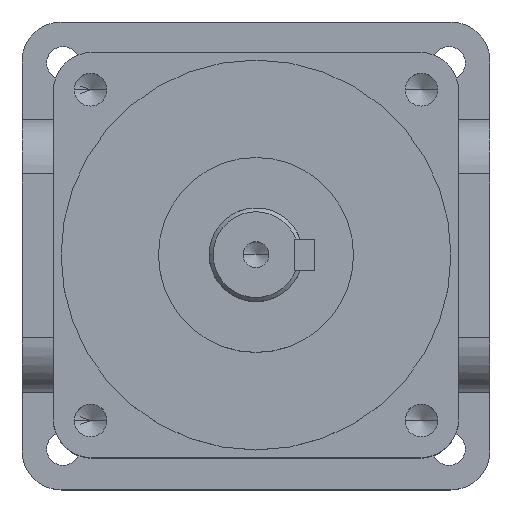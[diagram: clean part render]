
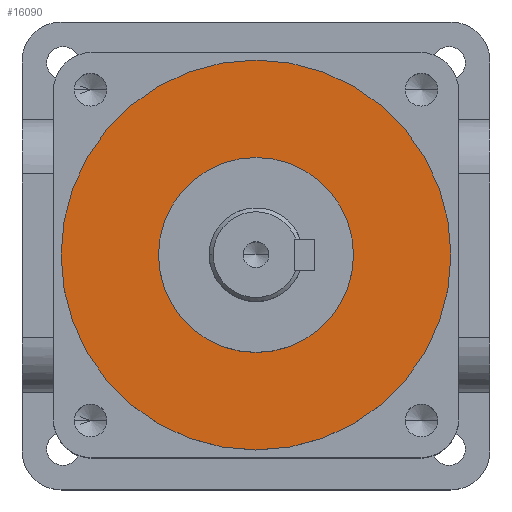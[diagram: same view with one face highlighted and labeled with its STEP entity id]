
A CAD part, top view. The second image highlights one B-rep face of the part: STEP entity #16090.
In plain terms, the highlighted planar face has unit normal (0, 0, 1).
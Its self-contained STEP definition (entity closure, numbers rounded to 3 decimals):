
#723 = ORIENTED_EDGE ( 'NONE', *, *, #6037, .F. ) ;
#1402 = EDGE_CURVE ( 'NONE', #13613, #7483, #23952, .T. ) ;
#1696 = EDGE_CURVE ( 'NONE', #28049, #32334, #6658, .T. ) ;
#1710 = PLANE ( 'NONE',  #25698 ) ;
#4171 = DIRECTION ( 'NONE',  ( 1., 0., 0. ) ) ;
#5046 = ORIENTED_EDGE ( 'NONE', *, *, #31657, .T. ) ;
#6037 = EDGE_CURVE ( 'NONE', #7483, #13613, #11746, .T. ) ;
#6093 = CARTESIAN_POINT ( 'NONE',  ( 0., 0., 3. ) ) ;
#6429 = EDGE_LOOP ( 'NONE', ( #723, #8174 ) ) ;
#6658 = CIRCLE ( 'NONE', #18054, 12.5 ) ;
#7483 = VERTEX_POINT ( 'NONE', #17508 ) ;
#8174 = ORIENTED_EDGE ( 'NONE', *, *, #1402, .F. ) ;
#8578 = DIRECTION ( 'NONE',  ( -1., 0., 0. ) ) ;
#8661 = CARTESIAN_POINT ( 'NONE',  ( 12.5, 0., 3. ) ) ;
#10642 = CARTESIAN_POINT ( 'NONE',  ( 0., 0., 3. ) ) ;
#11105 = CARTESIAN_POINT ( 'NONE',  ( -12.5, 0., 3. ) ) ;
#11746 = CIRCLE ( 'NONE', #13493, 25. ) ;
#12696 = CIRCLE ( 'NONE', #24050, 12.5 ) ;
#12899 = CARTESIAN_POINT ( 'NONE',  ( 0., 0., 3. ) ) ;
#13187 = DIRECTION ( 'NONE',  ( -1., 0., 0. ) ) ;
#13445 = DIRECTION ( 'NONE',  ( 0., 0., -1. ) ) ;
#13493 = AXIS2_PLACEMENT_3D ( 'NONE', #6093, #23615, #8578 ) ;
#13613 = VERTEX_POINT ( 'NONE', #23464 ) ;
#14893 = ORIENTED_EDGE ( 'NONE', *, *, #1696, .T. ) ;
#15400 = DIRECTION ( 'NONE',  ( -1., 0., 0. ) ) ;
#16090 = ADVANCED_FACE ( 'NONE', ( #23386, #30115 ), #1710, .T. ) ;
#16609 = CARTESIAN_POINT ( 'NONE',  ( 0., 0., 3. ) ) ;
#17508 = CARTESIAN_POINT ( 'NONE',  ( -25., 0., 3. ) ) ;
#18054 = AXIS2_PLACEMENT_3D ( 'NONE', #10642, #28288, #13187 ) ;
#19214 = DIRECTION ( 'NONE',  ( 0., 0., 1. ) ) ;
#23386 = FACE_BOUND ( 'NONE', #23566, .T. ) ;
#23464 = CARTESIAN_POINT ( 'NONE',  ( 25., 0., 3. ) ) ;
#23566 = EDGE_LOOP ( 'NONE', ( #5046, #14893 ) ) ;
#23615 = DIRECTION ( 'NONE',  ( 0., 0., -1. ) ) ;
#23952 = CIRCLE ( 'NONE', #24397, 25. ) ;
#24050 = AXIS2_PLACEMENT_3D ( 'NONE', #28561, #13445, #31144 ) ;
#24397 = AXIS2_PLACEMENT_3D ( 'NONE', #12899, #30543, #15400 ) ;
#25698 = AXIS2_PLACEMENT_3D ( 'NONE', #16609, #19214, #4171 ) ;
#28049 = VERTEX_POINT ( 'NONE', #8661 ) ;
#28288 = DIRECTION ( 'NONE',  ( 0., 0., -1. ) ) ;
#28561 = CARTESIAN_POINT ( 'NONE',  ( 0., 0., 3. ) ) ;
#30115 = FACE_OUTER_BOUND ( 'NONE', #6429, .T. ) ;
#30543 = DIRECTION ( 'NONE',  ( 0., 0., -1. ) ) ;
#31144 = DIRECTION ( 'NONE',  ( -1., 0., 0. ) ) ;
#31657 = EDGE_CURVE ( 'NONE', #32334, #28049, #12696, .T. ) ;
#32334 = VERTEX_POINT ( 'NONE', #11105 ) ;
